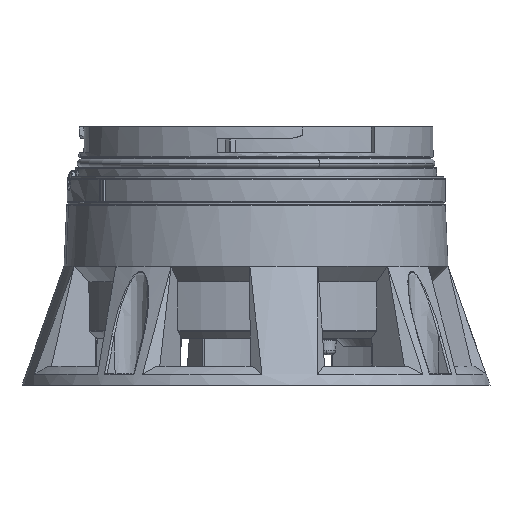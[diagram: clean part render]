
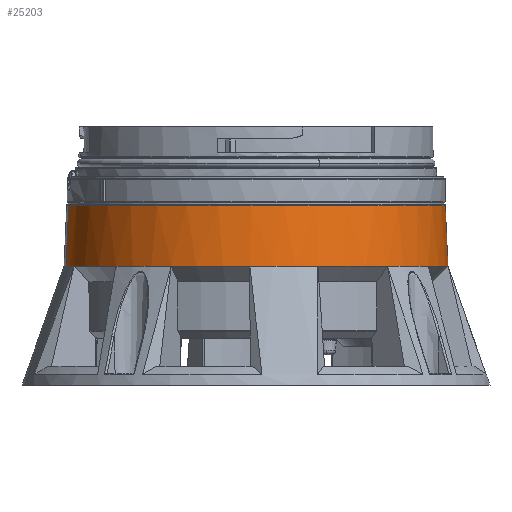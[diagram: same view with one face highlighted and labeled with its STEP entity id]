
A CAD part, left-side view. The second image highlights one B-rep face of the part: STEP entity #25203.
In plain terms, the highlighted conical face has half-angle 2.5 degrees and reference radius 55.397 mm.
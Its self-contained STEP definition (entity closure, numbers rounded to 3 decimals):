
#7684=CARTESIAN_POINT('',(-42.385,24.736,
-0.999));
#7704=CARTESIAN_POINT('',(-48.093,1.877,
-0.999));
#7730=CARTESIAN_POINT('',(-10.304,52.91,
-0.999));
#7754=CARTESIAN_POINT('',(-30.503,40.782,
-0.999));
#7972=CARTESIAN_POINT('',(-16.974,-49.953,
-0.999));
#7992=CARTESIAN_POINT('',(5.885,-55.66,
-0.999));
#8018=CARTESIAN_POINT('',(-45.148,-17.871,
-0.999));
#8042=CARTESIAN_POINT('',(-33.02,-38.071,
-0.999));
#9170=CARTESIAN_POINT('',(7.665,0.097,
-0.999));
#9171=DIRECTION('',(0.,0.,-1.));
#9172=DIRECTION('',(-0.999,0.032,0.));
#9173=AXIS2_PLACEMENT_3D('',#9170,#9171,#9172);
#9185=CARTESIAN_POINT('',(7.665,0.097,
-0.999));
#9186=DIRECTION('',(0.,0.,-1.));
#9187=DIRECTION('',(-0.684,0.729,0.));
#9188=AXIS2_PLACEMENT_3D('',#9185,#9186,#9187);
#9235=CARTESIAN_POINT('',(7.665,0.097,
-0.999));
#9236=DIRECTION('',(0.,0.,-1.));
#9237=DIRECTION('',(-0.032,-0.999,0.));
#9238=AXIS2_PLACEMENT_3D('',#9235,#9236,#9237);
#9539=CARTESIAN_POINT('',(7.665,0.097,
-0.999));
#9540=DIRECTION('',(0.,0.,-1.));
#9541=DIRECTION('',(-0.729,-0.684,0.));
#9542=AXIS2_PLACEMENT_3D('',#9539,#9540,#9541);
#9544=CARTESIAN_POINT('',(7.665,0.097,
-0.999));
#9545=DIRECTION('',(0.,0.,1.));
#9546=DIRECTION('',(-0.032,-0.999,0.));
#9547=AXIS2_PLACEMENT_3D('',#9544,#9545,#9546);
#9549=CARTESIAN_POINT('',(7.665,0.097,
-0.999));
#9550=DIRECTION('',(0.,0.,1.));
#9551=DIRECTION('',(-0.729,-0.684,0.));
#9552=AXIS2_PLACEMENT_3D('',#9549,#9550,#9551);
#9554=CARTESIAN_POINT('',(7.665,0.097,
-0.999));
#9555=DIRECTION('',(0.,0.,1.));
#9556=DIRECTION('',(-0.999,0.032,0.));
#9557=AXIS2_PLACEMENT_3D('',#9554,#9555,#9556);
#9559=CARTESIAN_POINT('',(7.665,0.097,
-0.999));
#9560=DIRECTION('',(0.,0.,1.));
#9561=DIRECTION('',(-0.684,0.729,0.));
#9562=AXIS2_PLACEMENT_3D('',#9559,#9560,#9561);
#9564=CARTESIAN_POINT('',(7.665,0.097,
-0.999));
#9565=DIRECTION('',(0.,0.,1.));
#9566=DIRECTION('',(-0.147,0.989,0.));
#9567=AXIS2_PLACEMENT_3D('',#9564,#9565,#9566);
#9569=DIRECTION('',(-0.006,0.043,-0.999));
#9570=VECTOR('',#9569,17.826);
#9571=CARTESIAN_POINT('',(-0.448,54.504,
16.81));
#9572=LINE('',#9571,#9570);
#9598=DIRECTION('',(0.006,-0.043,-0.999));
#9599=VECTOR('',#9598,17.826);
#9600=CARTESIAN_POINT('',(15.777,-54.31,16.81));
#9601=LINE('',#9600,#9599);
#18360=CARTESIAN_POINT('',(7.665,0.097,
16.81));
#18361=DIRECTION('',(0.,0.,1.));
#18362=DIRECTION('',(-0.147,0.989,0.));
#18363=AXIS2_PLACEMENT_3D('',#18360,#18361,#18362);
#19963=VERTEX_POINT('',#7684);
#19975=VERTEX_POINT('',#7704);
#19989=VERTEX_POINT('',#7730);
#20001=VERTEX_POINT('',#7754);
#20119=VERTEX_POINT('',#7972);
#20131=VERTEX_POINT('',#7992);
#20145=VERTEX_POINT('',#8018);
#20157=VERTEX_POINT('',#8042);
#21627=CARTESIAN_POINT('',(-0.562,55.273,
-0.999));
#21629=VERTEX_POINT('',#21627);
#21631=CARTESIAN_POINT('',(15.892,-55.079,
-0.999));
#21633=VERTEX_POINT('',#21631);
#21635=CARTESIAN_POINT('',(15.777,-54.31,
16.81));
#21636=VERTEX_POINT('',#21635);
#21637=CARTESIAN_POINT('',(-0.448,54.504,
16.81));
#21638=VERTEX_POINT('',#21637);
#25181=CARTESIAN_POINT('',(7.665,0.097,
7.906));
#25182=DIRECTION('',(0.,0.,-1.));
#25183=DIRECTION('',(0.147,-0.989,0.));
#25184=AXIS2_PLACEMENT_3D('',#25181,#25182,#25183);
#25185=CONICAL_SURFACE('',#25184,55.397,2.5);
#25187=ORIENTED_EDGE('',*,*,#25186,.T.);
#25189=ORIENTED_EDGE('',*,*,#25188,.T.);
#25190=ORIENTED_EDGE('',*,*,#25064,.F.);
#25191=ORIENTED_EDGE('',*,*,#25022,.T.);
#25192=ORIENTED_EDGE('',*,*,#25057,.F.);
#25193=ORIENTED_EDGE('',*,*,#25175,.T.);
#25194=ORIENTED_EDGE('',*,*,#25050,.F.);
#25195=ORIENTED_EDGE('',*,*,#24943,.T.);
#25196=ORIENTED_EDGE('',*,*,#25043,.F.);
#25197=ORIENTED_EDGE('',*,*,#24957,.T.);
#25198=ORIENTED_EDGE('',*,*,#25036,.F.);
#25200=ORIENTED_EDGE('',*,*,#25199,.F.);
#25201=EDGE_LOOP('',(#25187,#25189,#25190,#25191,#25192,#25193,#25194,#25195,
#25196,#25197,#25198,#25200));
#25202=FACE_OUTER_BOUND('',#25201,.F.);
#25203=ADVANCED_FACE('',(#25202),#25185,.T.);
#9174=CIRCLE('',#9173,55.786);
#9189=CIRCLE('',#9188,55.786);
#9239=CIRCLE('',#9238,55.786);
#9543=CIRCLE('',#9542,55.786);
#9548=CIRCLE('',#9547,55.786);
#9553=CIRCLE('',#9552,55.786);
#9558=CIRCLE('',#9557,55.786);
#9563=CIRCLE('',#9562,55.786);
#9568=CIRCLE('',#9567,55.786);
#18364=CIRCLE('',#18363,55.008);
#24943=EDGE_CURVE('',#19975,#19963,#9174,.T.);
#24957=EDGE_CURVE('',#20001,#19989,#9189,.T.);
#25022=EDGE_CURVE('',#20131,#20119,#9239,.T.);
#25036=EDGE_CURVE('',#21629,#19989,#9568,.T.);
#25043=EDGE_CURVE('',#20001,#19963,#9563,.T.);
#25050=EDGE_CURVE('',#19975,#20145,#9558,.T.);
#25057=EDGE_CURVE('',#20157,#20119,#9553,.T.);
#25064=EDGE_CURVE('',#20131,#21633,#9548,.T.);
#25175=EDGE_CURVE('',#20157,#20145,#9543,.T.);
#25186=EDGE_CURVE('',#21638,#21636,#18364,.T.);
#25188=EDGE_CURVE('',#21636,#21633,#9601,.T.);
#25199=EDGE_CURVE('',#21638,#21629,#9572,.T.);
